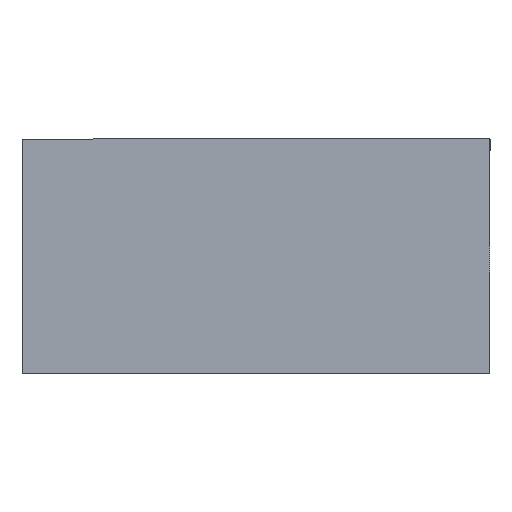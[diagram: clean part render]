
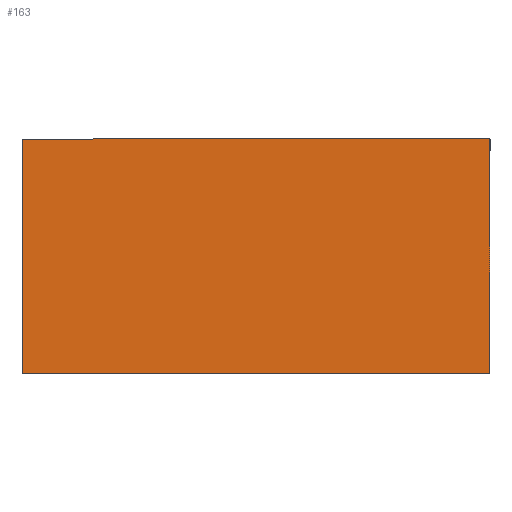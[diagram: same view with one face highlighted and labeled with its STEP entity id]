
A CAD part, left-side view. The second image highlights one B-rep face of the part: STEP entity #163.
In plain terms, the highlighted planar face has unit normal (-1, 0, 0).
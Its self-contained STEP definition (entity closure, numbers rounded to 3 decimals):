
#2 = ORIENTED_EDGE ( 'NONE', *, *, #142, .T. ) ;
#4 = ORIENTED_EDGE ( 'NONE', *, *, #148, .F. ) ;
#17 = VERTEX_POINT ( 'NONE', #100 ) ;
#24 = CARTESIAN_POINT ( 'NONE',  ( -207.5, -24., 12. ) ) ;
#27 = CARTESIAN_POINT ( 'NONE',  ( -207.5, -24., 12. ) ) ;
#43 = DIRECTION ( 'NONE',  ( 0., 0., -1. ) ) ;
#45 = LINE ( 'NONE', #125, #92 ) ;
#47 = DIRECTION ( 'NONE',  ( 0., -1., 0. ) ) ;
#60 = VERTEX_POINT ( 'NONE', #121 ) ;
#62 = PLANE ( 'NONE',  #84 ) ;
#76 = VERTEX_POINT ( 'NONE', #27 ) ;
#81 = FACE_OUTER_BOUND ( 'NONE', #189, .T. ) ;
#84 = AXIS2_PLACEMENT_3D ( 'NONE', #102, #157, #43 ) ;
#92 = VECTOR ( 'NONE', #225, 1000. ) ;
#100 = CARTESIAN_POINT ( 'NONE',  ( -207.5, -24., -12. ) ) ;
#102 = CARTESIAN_POINT ( 'NONE',  ( -207.5, -24., 12. ) ) ;
#104 = DIRECTION ( 'NONE',  ( 0., -1., 0. ) ) ;
#105 = CARTESIAN_POINT ( 'NONE',  ( -207.5, 24., -12. ) ) ;
#113 = VECTOR ( 'NONE', #47, 1000. ) ;
#115 = EDGE_CURVE ( 'NONE', #76, #17, #45, .T. ) ;
#118 = LINE ( 'NONE', #141, #113 ) ;
#121 = CARTESIAN_POINT ( 'NONE',  ( -207.5, 24., 12. ) ) ;
#125 = CARTESIAN_POINT ( 'NONE',  ( -207.5, -24., 12. ) ) ;
#141 = CARTESIAN_POINT ( 'NONE',  ( -207.5, -24., -12. ) ) ;
#142 = EDGE_CURVE ( 'NONE', #156, #17, #118, .T. ) ;
#148 = EDGE_CURVE ( 'NONE', #60, #76, #192, .T. ) ;
#156 = VERTEX_POINT ( 'NONE', #105 ) ;
#157 = DIRECTION ( 'NONE',  ( 1., 0., 0. ) ) ;
#161 = CARTESIAN_POINT ( 'NONE',  ( -207.5, 24., 12. ) ) ;
#163 = ADVANCED_FACE ( 'NONE', ( #81 ), #62, .F. ) ;
#175 = VECTOR ( 'NONE', #104, 1000. ) ;
#189 = EDGE_LOOP ( 'NONE', ( #2, #221, #4, #205 ) ) ;
#191 = LINE ( 'NONE', #161, #223 ) ;
#192 = LINE ( 'NONE', #24, #175 ) ;
#194 = DIRECTION ( 'NONE',  ( 0., 0., -1. ) ) ;
#199 = EDGE_CURVE ( 'NONE', #60, #156, #191, .T. ) ;
#205 = ORIENTED_EDGE ( 'NONE', *, *, #199, .T. ) ;
#221 = ORIENTED_EDGE ( 'NONE', *, *, #115, .F. ) ;
#223 = VECTOR ( 'NONE', #194, 1000. ) ;
#225 = DIRECTION ( 'NONE',  ( 0., 0., -1. ) ) ;
